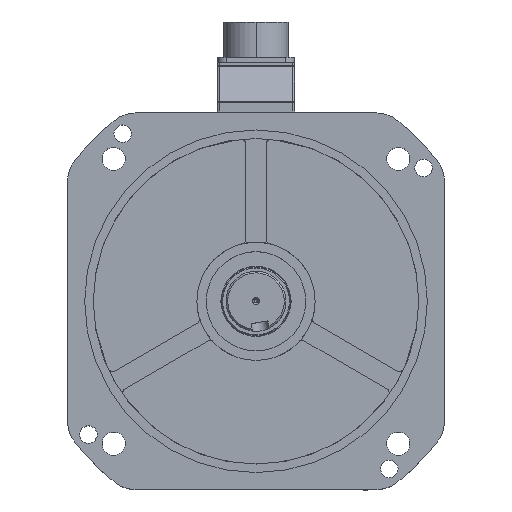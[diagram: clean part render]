
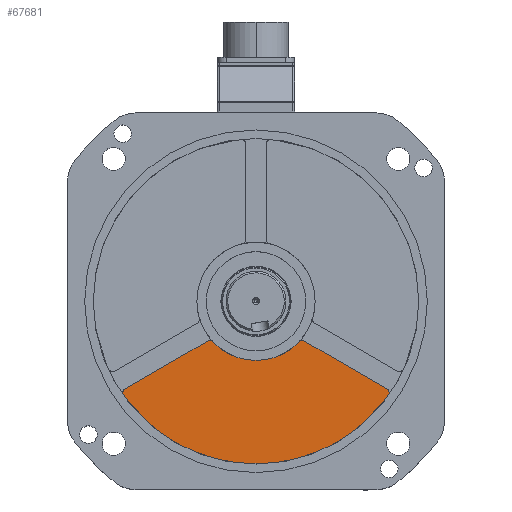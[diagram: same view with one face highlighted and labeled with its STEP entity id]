
A CAD part, top view. The second image highlights one B-rep face of the part: STEP entity #67681.
In plain terms, the highlighted planar face has unit normal (0, 0, 1).
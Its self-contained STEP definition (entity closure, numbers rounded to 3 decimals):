
#295 = EDGE_CURVE ( 'NONE', #51279, #11077, #34662, .T. ) ;
#2711 = VECTOR ( 'NONE', #28907, 1000. ) ;
#2750 = DIRECTION ( 'NONE',  ( 1., 0., 0. ) ) ;
#4665 = PLANE ( 'NONE',  #31573 ) ;
#5673 = DIRECTION ( 'NONE',  ( 1., 0., 0. ) ) ;
#6892 = VERTEX_POINT ( 'NONE', #36219 ) ;
#8005 = EDGE_CURVE ( 'NONE', #25548, #11077, #66381, .T. ) ;
#9823 = CARTESIAN_POINT ( 'NONE',  ( 27.027, 25.996, 16. ) ) ;
#9917 = EDGE_CURVE ( 'NONE', #46685, #66426, #54711, .T. ) ;
#11077 = VERTEX_POINT ( 'NONE', #46406 ) ;
#11467 = CARTESIAN_POINT ( 'NONE',  ( -3., 5.196, 16. ) ) ;
#13900 = DIRECTION ( 'NONE',  ( 0., 0., 1. ) ) ;
#13957 = DIRECTION ( 'NONE',  ( 1., 0., 0. ) ) ;
#14229 = EDGE_CURVE ( 'NONE', #43104, #46685, #59929, .T. ) ;
#14946 = EDGE_CURVE ( 'NONE', #51279, #43104, #40373, .T. ) ;
#18600 = CARTESIAN_POINT ( 'NONE',  ( -27.027, 25.996, 16. ) ) ;
#18677 = DIRECTION ( 'NONE',  ( 1., 0., 0. ) ) ;
#19610 = CARTESIAN_POINT ( 'NONE',  ( 28.527, 23.398, 16. ) ) ;
#20273 = DIRECTION ( 'NONE',  ( 0., 0., 1. ) ) ;
#20501 = EDGE_LOOP ( 'NONE', ( #41732, #63304, #26097, #52720, #60410, #65889, #55713, #55518, #60397 ) ) ;
#20562 = CIRCLE ( 'NONE', #47279, 3. ) ;
#24326 = VERTEX_POINT ( 'NONE', #25009 ) ;
#25009 = CARTESIAN_POINT ( 'NONE',  ( -77.792, 53.574, 16. ) ) ;
#25548 = VERTEX_POINT ( 'NONE', #38467 ) ;
#26097 = ORIENTED_EDGE ( 'NONE', *, *, #51838, .T. ) ;
#26739 = CARTESIAN_POINT ( 'NONE',  ( 76.292, 50.976, 16. ) ) ;
#27446 = EDGE_CURVE ( 'NONE', #24326, #6892, #44300, .T. ) ;
#27854 = DIRECTION ( 'NONE',  ( 0.866, 0.5, 0. ) ) ;
#28134 = EDGE_CURVE ( 'NONE', #32822, #66426, #53342, .T. ) ;
#28567 = CARTESIAN_POINT ( 'NONE',  ( 3., 5.196, 16. ) ) ;
#28907 = DIRECTION ( 'NONE',  ( -0.866, 0.5, 0. ) ) ;
#29110 = AXIS2_PLACEMENT_3D ( 'NONE', #48909, #47874, #5673 ) ;
#31573 = AXIS2_PLACEMENT_3D ( 'NONE', #68836, #58377, #32217 ) ;
#32217 = DIRECTION ( 'NONE',  ( 1., 0., 0. ) ) ;
#32822 = VERTEX_POINT ( 'NONE', #52981 ) ;
#33189 = AXIS2_PLACEMENT_3D ( 'NONE', #51635, #41475, #13957 ) ;
#33794 = VECTOR ( 'NONE', #27854, 1000. ) ;
#34662 = CIRCLE ( 'NONE', #29110, 34.5 ) ;
#36219 = CARTESIAN_POINT ( 'NONE',  ( -76.292, 50.976, 16. ) ) ;
#38467 = CARTESIAN_POINT ( 'NONE',  ( -28.527, 23.398, 16. ) ) ;
#39858 = DIRECTION ( 'NONE',  ( 0., 0., 1. ) ) ;
#40373 = CIRCLE ( 'NONE', #41502, 3. ) ;
#41475 = DIRECTION ( 'NONE',  ( 0., 0., 1. ) ) ;
#41502 = AXIS2_PLACEMENT_3D ( 'NONE', #9823, #68424, #63524 ) ;
#41732 = ORIENTED_EDGE ( 'NONE', *, *, #9917, .T. ) ;
#43104 = VERTEX_POINT ( 'NONE', #19610 ) ;
#44300 = CIRCLE ( 'NONE', #33189, 3. ) ;
#44842 = CARTESIAN_POINT ( 'NONE',  ( 0., 0., 16. ) ) ;
#45438 = DIRECTION ( 'NONE',  ( 1., 0., 0. ) ) ;
#45487 = CARTESIAN_POINT ( 'NONE',  ( -74.792, 53.574, 16. ) ) ;
#46406 = CARTESIAN_POINT ( 'NONE',  ( -24.865, 23.917, 16. ) ) ;
#46685 = VERTEX_POINT ( 'NONE', #26739 ) ;
#47279 = AXIS2_PLACEMENT_3D ( 'NONE', #45487, #20273, #61537 ) ;
#47874 = DIRECTION ( 'NONE',  ( 0., 0., 1. ) ) ;
#48909 = CARTESIAN_POINT ( 'NONE',  ( 0., 0., 16. ) ) ;
#49093 = CARTESIAN_POINT ( 'NONE',  ( 24.865, 23.917, 16. ) ) ;
#49403 = DIRECTION ( 'NONE',  ( 0., 0., -1. ) ) ;
#49668 = AXIS2_PLACEMENT_3D ( 'NONE', #18600, #39858, #45438 ) ;
#50202 = CARTESIAN_POINT ( 'NONE',  ( 74.792, 53.574, 16. ) ) ;
#51279 = VERTEX_POINT ( 'NONE', #49093 ) ;
#51635 = CARTESIAN_POINT ( 'NONE',  ( -74.792, 53.574, 16. ) ) ;
#51838 = EDGE_CURVE ( 'NONE', #32822, #24326, #20562, .T. ) ;
#52480 = FACE_OUTER_BOUND ( 'NONE', #20501, .T. ) ;
#52720 = ORIENTED_EDGE ( 'NONE', *, *, #27446, .T. ) ;
#52981 = CARTESIAN_POINT ( 'NONE',  ( -77.231, 55.321, 16. ) ) ;
#53342 = CIRCLE ( 'NONE', #58901, 95. ) ;
#54711 = CIRCLE ( 'NONE', #59132, 3. ) ;
#55421 = LINE ( 'NONE', #28567, #2711 ) ;
#55518 = ORIENTED_EDGE ( 'NONE', *, *, #14946, .T. ) ;
#55713 = ORIENTED_EDGE ( 'NONE', *, *, #295, .F. ) ;
#58377 = DIRECTION ( 'NONE',  ( 0., 0., 1. ) ) ;
#58901 = AXIS2_PLACEMENT_3D ( 'NONE', #44842, #49403, #18677 ) ;
#59132 = AXIS2_PLACEMENT_3D ( 'NONE', #50202, #13900, #2750 ) ;
#59929 = LINE ( 'NONE', #11467, #33794 ) ;
#60397 = ORIENTED_EDGE ( 'NONE', *, *, #14229, .T. ) ;
#60410 = ORIENTED_EDGE ( 'NONE', *, *, #68640, .F. ) ;
#61537 = DIRECTION ( 'NONE',  ( 1., 0., 0. ) ) ;
#63304 = ORIENTED_EDGE ( 'NONE', *, *, #28134, .F. ) ;
#63524 = DIRECTION ( 'NONE',  ( 1., 0., 0. ) ) ;
#63951 = CARTESIAN_POINT ( 'NONE',  ( 77.231, 55.321, 16. ) ) ;
#65889 = ORIENTED_EDGE ( 'NONE', *, *, #8005, .T. ) ;
#66381 = CIRCLE ( 'NONE', #49668, 3. ) ;
#66426 = VERTEX_POINT ( 'NONE', #63951 ) ;
#67681 = ADVANCED_FACE ( 'NONE', ( #52480 ), #4665, .T. ) ;
#68424 = DIRECTION ( 'NONE',  ( 0., 0., 1. ) ) ;
#68640 = EDGE_CURVE ( 'NONE', #25548, #6892, #55421, .T. ) ;
#68836 = CARTESIAN_POINT ( 'NONE',  ( 0., 0., 16. ) ) ;
